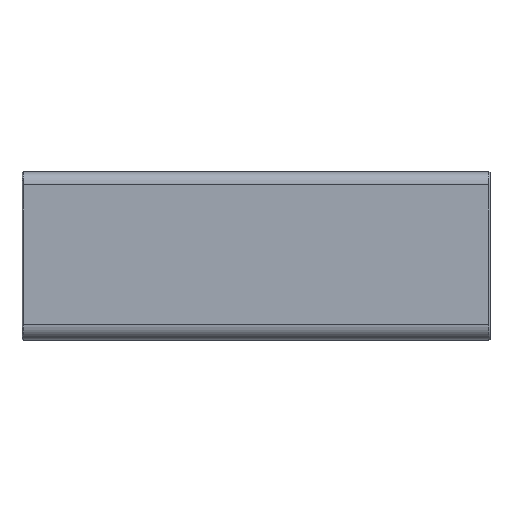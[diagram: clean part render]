
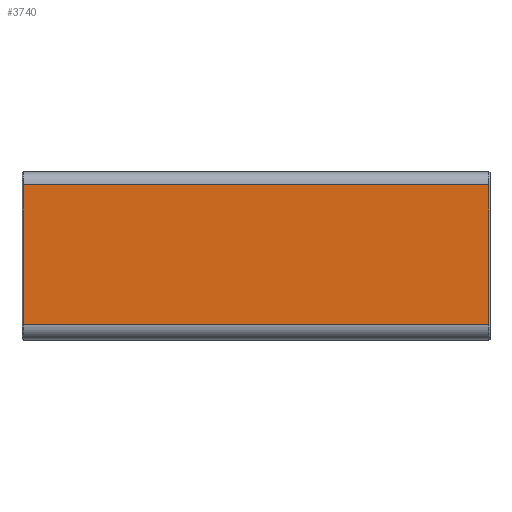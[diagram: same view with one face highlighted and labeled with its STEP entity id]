
A CAD part, top view. The second image highlights one B-rep face of the part: STEP entity #3740.
In plain terms, the highlighted planar face has unit normal (0, 0, 1).
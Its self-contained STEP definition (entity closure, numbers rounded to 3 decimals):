
#979 = PLANE('',#980);
#980 = AXIS2_PLACEMENT_3D('',#981,#982,#983);
#981 = CARTESIAN_POINT('',(-44.4,-27.,1.9));
#982 = DIRECTION('',(0.707,0.,-0.707)
  );
#983 = DIRECTION('',(0.,-1.,0.));
#1534 = PLANE('',#1535);
#1535 = AXIS2_PLACEMENT_3D('',#1536,#1537,#1538);
#1536 = CARTESIAN_POINT('',(44.4,-27.,1.9));
#1537 = DIRECTION('',(0.707,0.,0.707));
#1538 = DIRECTION('',(0.,-1.,0.));
#2048 = CYLINDRICAL_SURFACE('',#2049,2.5);
#2049 = AXIS2_PLACEMENT_3D('',#2050,#2051,#2052);
#2050 = CARTESIAN_POINT('',(-44.5,-0.5,-0.5));
#2051 = DIRECTION('',(-1.,0.,0.));
#2052 = DIRECTION('',(0.,-1.,0.));
#2411 = VERTEX_POINT('',#2412);
#2412 = CARTESIAN_POINT('',(-44.3,-0.5,2.));
#2512 = VERTEX_POINT('',#2513);
#2513 = CARTESIAN_POINT('',(-44.3,-27.,2.));
#2532 = EDGE_CURVE('',#2512,#2411,#2533,.T.);
#2533 = SURFACE_CURVE('',#2534,(#2538,#2545),.PCURVE_S1.);
#2534 = LINE('',#2535,#2536);
#2535 = CARTESIAN_POINT('',(-44.3,-27.,2.));
#2536 = VECTOR('',#2537,1.);
#2537 = DIRECTION('',(0.,1.,0.));
#2538 = PCURVE('',#979,#2539);
#2539 = DEFINITIONAL_REPRESENTATION('',(#2540),#2544);
#2540 = LINE('',#2541,#2542);
#2541 = CARTESIAN_POINT('',(-0.,-0.141));
#2542 = VECTOR('',#2543,1.);
#2543 = DIRECTION('',(-1.,0.));
#2544 = ( GEOMETRIC_REPRESENTATION_CONTEXT(2) 
PARAMETRIC_REPRESENTATION_CONTEXT() REPRESENTATION_CONTEXT('2D SPACE',''
  ) );
#2545 = PCURVE('',#2546,#2551);
#2546 = PLANE('',#2547);
#2547 = AXIS2_PLACEMENT_3D('',#2548,#2549,#2550);
#2548 = CARTESIAN_POINT('',(-44.5,-27.,2.));
#2549 = DIRECTION('',(0.,0.,1.));
#2550 = DIRECTION('',(0.,1.,0.));
#2551 = DEFINITIONAL_REPRESENTATION('',(#2552),#2556);
#2552 = LINE('',#2553,#2554);
#2553 = CARTESIAN_POINT('',(0.,-0.2));
#2554 = VECTOR('',#2555,1.);
#2555 = DIRECTION('',(1.,0.));
#2556 = ( GEOMETRIC_REPRESENTATION_CONTEXT(2) 
PARAMETRIC_REPRESENTATION_CONTEXT() REPRESENTATION_CONTEXT('2D SPACE',''
  ) );
#2651 = CYLINDRICAL_SURFACE('',#2652,3.);
#2652 = AXIS2_PLACEMENT_3D('',#2653,#2654,#2655);
#2653 = CARTESIAN_POINT('',(-44.5,-27.,-1.));
#2654 = DIRECTION('',(-1.,-0.,0.));
#2655 = DIRECTION('',(0.,1.,0.));
#3134 = VERTEX_POINT('',#3135);
#3135 = CARTESIAN_POINT('',(44.3,-0.5,2.));
#3230 = VERTEX_POINT('',#3231);
#3231 = CARTESIAN_POINT('',(44.3,-27.,2.));
#3250 = EDGE_CURVE('',#3230,#3134,#3251,.T.);
#3251 = SURFACE_CURVE('',#3252,(#3256,#3263),.PCURVE_S1.);
#3252 = LINE('',#3253,#3254);
#3253 = CARTESIAN_POINT('',(44.3,-27.,2.));
#3254 = VECTOR('',#3255,1.);
#3255 = DIRECTION('',(0.,1.,0.));
#3256 = PCURVE('',#1534,#3257);
#3257 = DEFINITIONAL_REPRESENTATION('',(#3258),#3262);
#3258 = LINE('',#3259,#3260);
#3259 = CARTESIAN_POINT('',(-0.,-0.141));
#3260 = VECTOR('',#3261,1.);
#3261 = DIRECTION('',(-1.,0.));
#3262 = ( GEOMETRIC_REPRESENTATION_CONTEXT(2) 
PARAMETRIC_REPRESENTATION_CONTEXT() REPRESENTATION_CONTEXT('2D SPACE',''
  ) );
#3263 = PCURVE('',#2546,#3264);
#3264 = DEFINITIONAL_REPRESENTATION('',(#3265),#3269);
#3265 = LINE('',#3266,#3267);
#3266 = CARTESIAN_POINT('',(0.,-88.8));
#3267 = VECTOR('',#3268,1.);
#3268 = DIRECTION('',(1.,0.));
#3269 = ( GEOMETRIC_REPRESENTATION_CONTEXT(2) 
PARAMETRIC_REPRESENTATION_CONTEXT() REPRESENTATION_CONTEXT('2D SPACE',''
  ) );
#3663 = EDGE_CURVE('',#2411,#3134,#3664,.T.);
#3664 = SURFACE_CURVE('',#3665,(#3669,#3676),.PCURVE_S1.);
#3665 = LINE('',#3666,#3667);
#3666 = CARTESIAN_POINT('',(-44.5,-0.5,2.));
#3667 = VECTOR('',#3668,1.);
#3668 = DIRECTION('',(1.,0.,0.));
#3669 = PCURVE('',#2048,#3670);
#3670 = DEFINITIONAL_REPRESENTATION('',(#3671),#3675);
#3671 = LINE('',#3672,#3673);
#3672 = CARTESIAN_POINT('',(1.571,0.));
#3673 = VECTOR('',#3674,1.);
#3674 = DIRECTION('',(0.,-1.));
#3675 = ( GEOMETRIC_REPRESENTATION_CONTEXT(2) 
PARAMETRIC_REPRESENTATION_CONTEXT() REPRESENTATION_CONTEXT('2D SPACE',''
  ) );
#3676 = PCURVE('',#2546,#3677);
#3677 = DEFINITIONAL_REPRESENTATION('',(#3678),#3682);
#3678 = LINE('',#3679,#3680);
#3679 = CARTESIAN_POINT('',(26.5,0.));
#3680 = VECTOR('',#3681,1.);
#3681 = DIRECTION('',(0.,-1.));
#3682 = ( GEOMETRIC_REPRESENTATION_CONTEXT(2) 
PARAMETRIC_REPRESENTATION_CONTEXT() REPRESENTATION_CONTEXT('2D SPACE',''
  ) );
#3740 = ADVANCED_FACE('',(#3741),#2546,.T.);
#3741 = FACE_BOUND('',#3742,.T.);
#3742 = EDGE_LOOP('',(#3743,#3764,#3765,#3766));
#3743 = ORIENTED_EDGE('',*,*,#3744,.T.);
#3744 = EDGE_CURVE('',#2512,#3230,#3745,.T.);
#3745 = SURFACE_CURVE('',#3746,(#3750,#3757),.PCURVE_S1.);
#3746 = LINE('',#3747,#3748);
#3747 = CARTESIAN_POINT('',(-44.5,-27.,2.));
#3748 = VECTOR('',#3749,1.);
#3749 = DIRECTION('',(1.,0.,0.));
#3750 = PCURVE('',#2546,#3751);
#3751 = DEFINITIONAL_REPRESENTATION('',(#3752),#3756);
#3752 = LINE('',#3753,#3754);
#3753 = CARTESIAN_POINT('',(0.,0.));
#3754 = VECTOR('',#3755,1.);
#3755 = DIRECTION('',(0.,-1.));
#3756 = ( GEOMETRIC_REPRESENTATION_CONTEXT(2) 
PARAMETRIC_REPRESENTATION_CONTEXT() REPRESENTATION_CONTEXT('2D SPACE',''
  ) );
#3757 = PCURVE('',#2651,#3758);
#3758 = DEFINITIONAL_REPRESENTATION('',(#3759),#3763);
#3759 = LINE('',#3760,#3761);
#3760 = CARTESIAN_POINT('',(-1.571,0.));
#3761 = VECTOR('',#3762,1.);
#3762 = DIRECTION('',(-0.,-1.));
#3763 = ( GEOMETRIC_REPRESENTATION_CONTEXT(2) 
PARAMETRIC_REPRESENTATION_CONTEXT() REPRESENTATION_CONTEXT('2D SPACE',''
  ) );
#3764 = ORIENTED_EDGE('',*,*,#3250,.T.);
#3765 = ORIENTED_EDGE('',*,*,#3663,.F.);
#3766 = ORIENTED_EDGE('',*,*,#2532,.F.);
